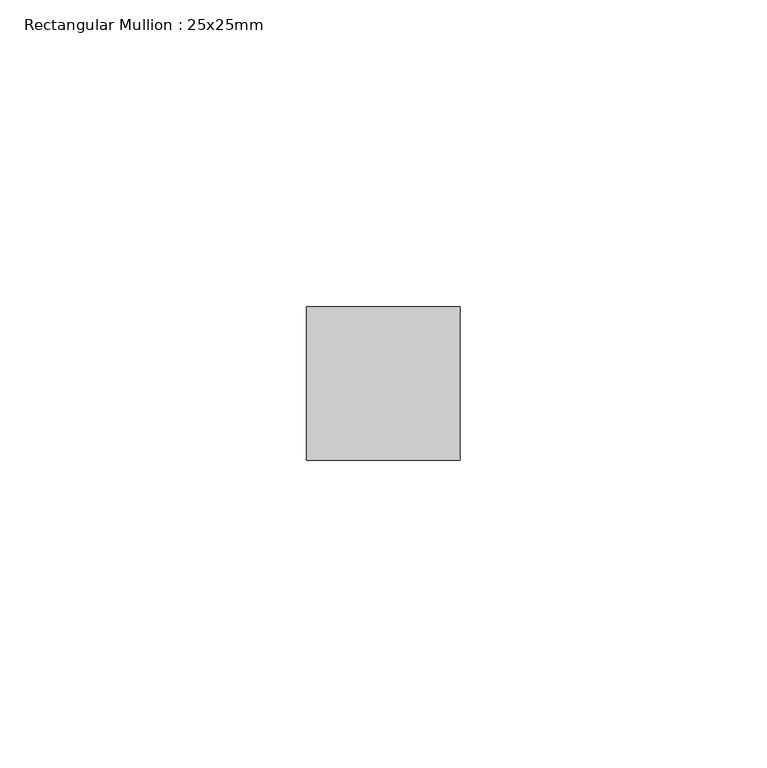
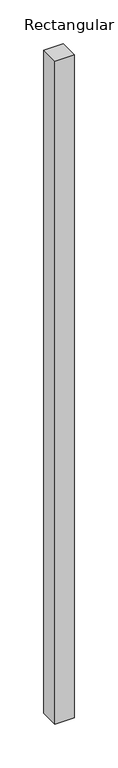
"""IFC4 building model written with IfcOpenShell, lengths in millimetres: member geometry, Rectangular Mullion : 25x25mm."""

from ifc_helpers import new_model, si_unit, frame, origin, place, context, project, spatial, polyline, outline, extrude, source, transform, mapped, element, save


def rectangular_mullion_25x25mm_41fac21b(model_context):
    return source(origin(), model_context, "Body", "SweptSolid", [
        extrude(outline(polyline([(12.5, 0.5), (12.5, -24.5), (-12.5, -24.5), (-12.5, 0.5), (12.5, 0.5)])), frame((0.0, 0.0, -920.0), z_axis=(0.0, 0.0, 1.0), x_axis=(1.0, 0.0, 0.0)), (0.0, 0.0, 1.0), 920.0),
    ])


if __name__ == "__main__":
    model = new_model("IFC4")
    model_context = context("Model", 3, world=origin())
    ifc_project = project(units=[si_unit("LENGTHUNIT", "METRE", prefix="MILLI")], contexts=[model_context])
    site = spatial("IfcSite", under=ifc_project)
    building = spatial("IfcBuilding", under=site)
    placement = place(None, origin())
    rectangular_mullion_25x25mm_shape = rectangular_mullion_25x25mm_41fac21b(model_context)
    element("IfcMember", 1, ObjectType="Rectangular Mullion : 25x25mm", at=placement, inside=building, context=model_context, shape_type="MappedRepresentation", body=[
        mapped(rectangular_mullion_25x25mm_shape, transform((0.0, 0.0, 0.0), x_axis=(1.0, 0.0, 0.0), y_axis=(0.0, 1.0, 0.0), z_axis=(0.0, 0.0, 1.0))),
    ])
    save(model, "model.ifc")
